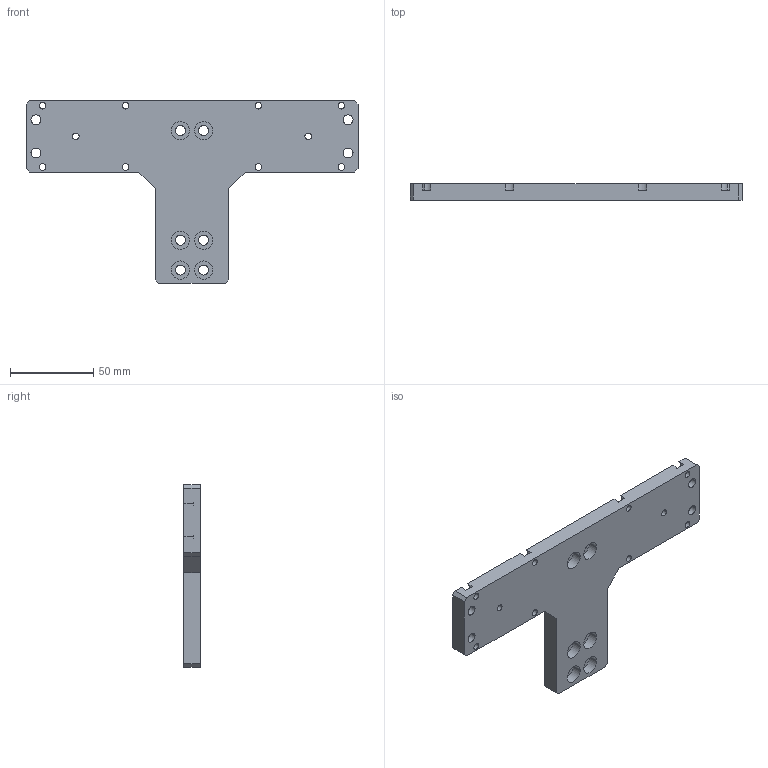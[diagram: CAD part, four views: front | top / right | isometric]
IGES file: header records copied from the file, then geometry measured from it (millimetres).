
Start section:  PTC IGES file: k46-k46l-st.igs
Global section: file name: k46-k46l-st.igs; native system: Pro/ENGINEER by Parametric Technology Corporation; preprocessor: 2008230; author: Owner; organization: Unknown; date: 20121211.144007; units: millimetre
Bounding box: 200 x 10 x 110 mm (x, y, z)
Surface area: 32655.2 mm2 (no closed solid volume)
Topology: 0 solids, 0 shells, 114 faces, 624 edges, 624 vertices
Faces by surface type: revolution 76, bspline 38
